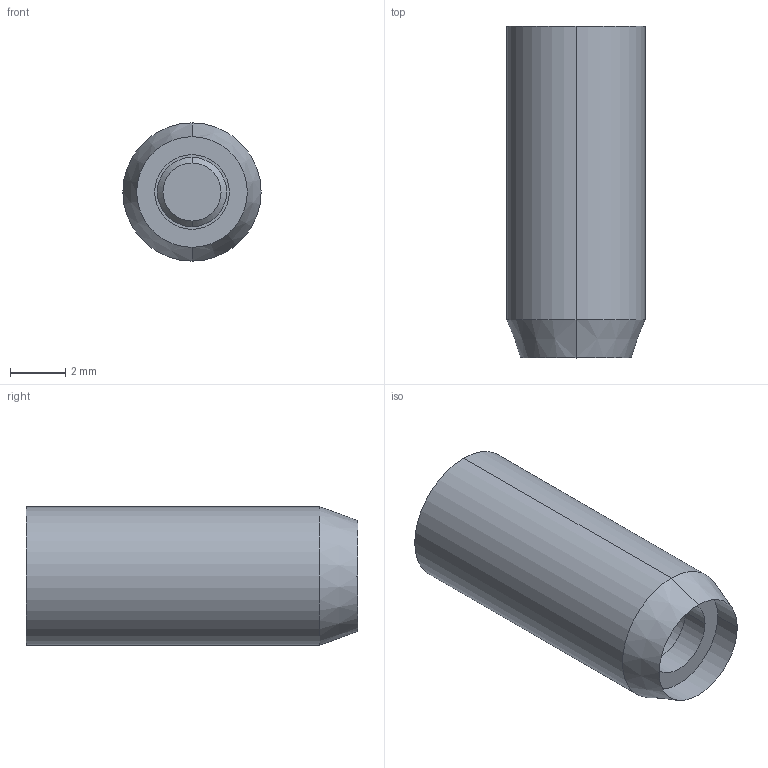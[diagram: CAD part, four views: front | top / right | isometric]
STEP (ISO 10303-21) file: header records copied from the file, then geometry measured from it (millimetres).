
FILE_DESCRIPTION (( 'STEP AP203' ), '1' );
FILE_NAME ('PV 050412.step', '2014-10-04T20:27:41', ( '' ), ( '' ), 'SwSTEP 2.0', 'SolidWorks 2009', '' );
FILE_SCHEMA (( 'CONFIG_CONTROL_DESIGN' ));
Length unit declared in the file: millimetre
Products named in the file (1): PV 050412
Bounding box: 5 x 12 x 5 mm (x, y, z)
Volume: 187.4 mm3; surface area: 446 mm2
Topology: 3 solids, 3 shells, 40 faces, 84 edges, 54 vertices
Faces by surface type: plane 16, cylinder 14, cone 10
Entity records: 1163 total; most frequent: DIRECTION 208, CARTESIAN_POINT 179, ORIENTED_EDGE 168, EDGE_CURVE 84, AXIS2_PLACEMENT_3D 83, VERTEX_POINT 54, EDGE_LOOP 48, CIRCLE 42
